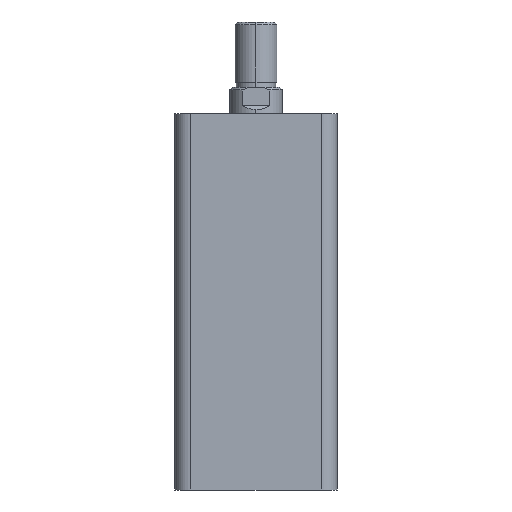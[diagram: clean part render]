
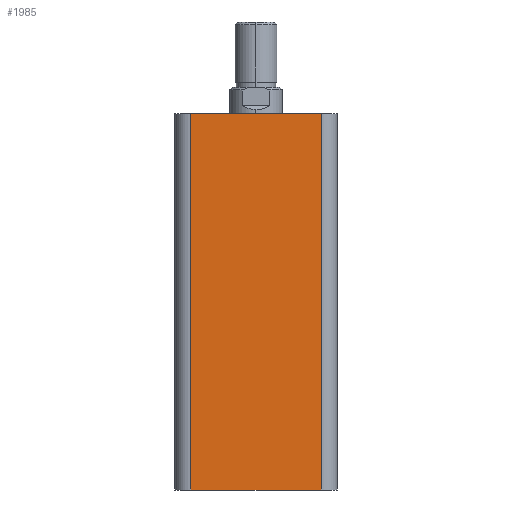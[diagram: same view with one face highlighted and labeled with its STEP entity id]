
A CAD part, left-side view. The second image highlights one B-rep face of the part: STEP entity #1985.
In plain terms, the highlighted planar face has unit normal (-1, 0, 0).
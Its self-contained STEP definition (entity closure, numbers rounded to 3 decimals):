
#3 = CARTESIAN_POINT ( 'NONE',  ( -31., 31., 144. ) ) ;
#19 = DIRECTION ( 'NONE',  ( 0., 0., -1. ) ) ;
#20 = DIRECTION ( 'NONE',  ( 1., 0., 0. ) ) ;
#23 = PLANE ( 'NONE',  #4044 ) ;
#253 = FACE_OUTER_BOUND ( 'NONE', #2065, .T. ) ;
#425 = LINE ( 'NONE', #2714, #430 ) ;
#427 = LINE ( 'NONE', #2716, #432 ) ;
#430 = VECTOR ( 'NONE', #2718, 1000. ) ;
#432 = VECTOR ( 'NONE', #2720, 1000. ) ;
#452 = LINE ( 'NONE', #2754, #454 ) ;
#454 = VECTOR ( 'NONE', #2755, 1000. ) ;
#475 = LINE ( 'NONE', #2787, #477 ) ;
#477 = VECTOR ( 'NONE', #2788, 1000. ) ;
#1546 = CARTESIAN_POINT ( 'NONE',  ( -31., 25., 0. ) ) ;
#1547 = CARTESIAN_POINT ( 'NONE',  ( -31., -25., 0. ) ) ;
#1565 = CARTESIAN_POINT ( 'NONE',  ( -31., -25., 144. ) ) ;
#1580 = CARTESIAN_POINT ( 'NONE',  ( -31., 25., 144. ) ) ;
#1985 = ADVANCED_FACE ( 'NONE', ( #253 ), #23, .F. ) ;
#2065 = EDGE_LOOP ( 'NONE', ( #3274, #3275, #3276, #3277 ) ) ;
#2189 = EDGE_CURVE ( 'NONE', #4389, #4354, #425, .T. ) ;
#2190 = EDGE_CURVE ( 'NONE', #4355, #4373, #427, .T. ) ;
#2206 = EDGE_CURVE ( 'NONE', #4354, #4355, #452, .T. ) ;
#2220 = EDGE_CURVE ( 'NONE', #4389, #4373, #475, .T. ) ;
#2714 = CARTESIAN_POINT ( 'NONE',  ( -31., 25., 144. ) ) ;
#2716 = CARTESIAN_POINT ( 'NONE',  ( -31., -25., 144. ) ) ;
#2718 = DIRECTION ( 'NONE',  ( 0., 0., -1. ) ) ;
#2720 = DIRECTION ( 'NONE',  ( 0., 0., 1. ) ) ;
#2754 = CARTESIAN_POINT ( 'NONE',  ( -31., 31., 0. ) ) ;
#2755 = DIRECTION ( 'NONE',  ( 0., -1., 0. ) ) ;
#2787 = CARTESIAN_POINT ( 'NONE',  ( -31., 31., 144. ) ) ;
#2788 = DIRECTION ( 'NONE',  ( 0., -1., 0. ) ) ;
#3274 = ORIENTED_EDGE ( 'NONE', *, *, #2206, .T. ) ;
#3275 = ORIENTED_EDGE ( 'NONE', *, *, #2190, .T. ) ;
#3276 = ORIENTED_EDGE ( 'NONE', *, *, #2220, .F. ) ;
#3277 = ORIENTED_EDGE ( 'NONE', *, *, #2189, .T. ) ;
#4044 = AXIS2_PLACEMENT_3D ( 'NONE', #3, #20, #19 ) ;
#4354 = VERTEX_POINT ( 'NONE', #1546 ) ;
#4355 = VERTEX_POINT ( 'NONE', #1547 ) ;
#4373 = VERTEX_POINT ( 'NONE', #1565 ) ;
#4389 = VERTEX_POINT ( 'NONE', #1580 ) ;
